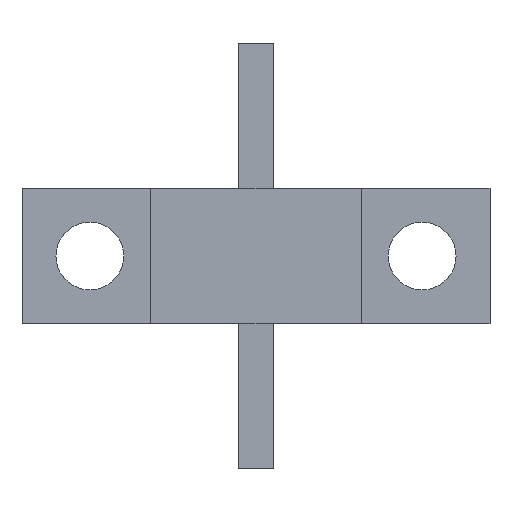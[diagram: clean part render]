
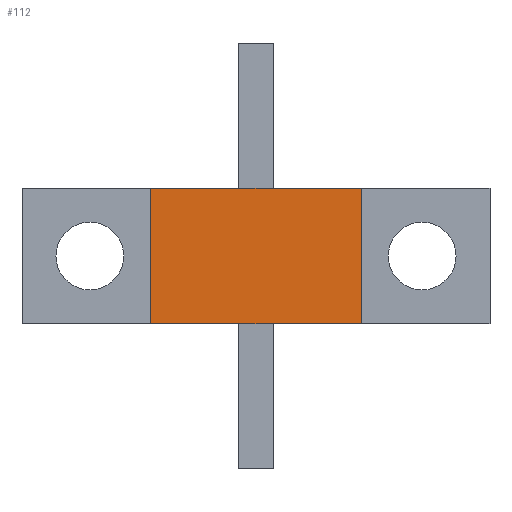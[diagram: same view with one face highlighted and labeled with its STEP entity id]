
A CAD part, top view. The second image highlights one B-rep face of the part: STEP entity #112.
In plain terms, the highlighted planar face has unit normal (0, 0, 1).
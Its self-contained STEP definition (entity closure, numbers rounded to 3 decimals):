
#112=ADVANCED_FACE('',(#300),#302,.T.);
#300=FACE_BOUND('',#301,.T.);
#301=EDGE_LOOP('',(#458,#459,#460,#461));
#302=PLANE('',#303);
#303=AXIS2_PLACEMENT_3D('',#304,#305,#306);
#304=CARTESIAN_POINT('',(0.,0.,3.7));
#305=DIRECTION('',(0.,0.,1.));
#306=DIRECTION('',(-1.,0.,0.));
#458=ORIENTED_EDGE('',*,*,#553,.T.);
#459=ORIENTED_EDGE('',*,*,#554,.T.);
#460=ORIENTED_EDGE('',*,*,#531,.T.);
#461=ORIENTED_EDGE('',*,*,#551,.T.);
#531=EDGE_CURVE('',#585,#583,#586,.T.);
#551=EDGE_CURVE('',#583,#619,#621,.T.);
#553=EDGE_CURVE('',#619,#623,#624,.T.);
#554=EDGE_CURVE('',#623,#585,#625,.T.);
#583=VERTEX_POINT('',#671);
#585=VERTEX_POINT('',#675);
#586=LINE('',#676,#677);
#619=VERTEX_POINT('',#747);
#621=LINE('',#751,#752);
#623=VERTEX_POINT('',#757);
#624=LINE('',#758,#759);
#625=LINE('',#761,#762);
#671=CARTESIAN_POINT('',(-4.5,2.9,3.7));
#675=CARTESIAN_POINT('',(4.5,2.9,3.7));
#676=CARTESIAN_POINT('',(4.5,2.9,3.7));
#677=VECTOR('',#678,1.);
#678=DIRECTION('',(-1.,0.,0.));
#747=CARTESIAN_POINT('',(-4.5,-2.9,3.7));
#751=CARTESIAN_POINT('',(-4.5,2.9,3.7));
#752=VECTOR('',#753,1.);
#753=DIRECTION('',(0.,-1.,0.));
#757=CARTESIAN_POINT('',(4.5,-2.9,3.7));
#758=CARTESIAN_POINT('',(-4.5,-2.9,3.7));
#759=VECTOR('',#760,1.);
#760=DIRECTION('',(1.,0.,0.));
#761=CARTESIAN_POINT('',(4.5,-2.9,3.7));
#762=VECTOR('',#763,1.);
#763=DIRECTION('',(0.,1.,0.));
